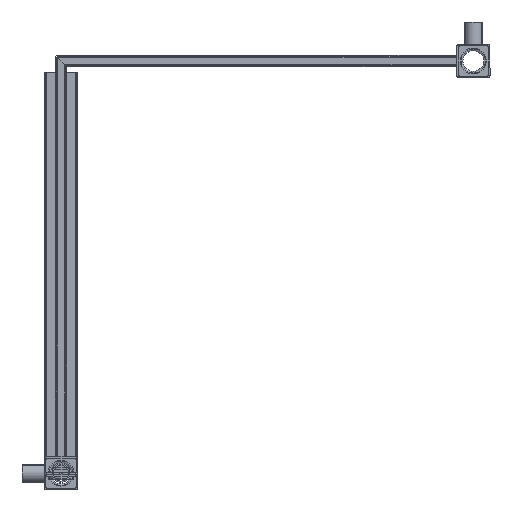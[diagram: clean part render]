
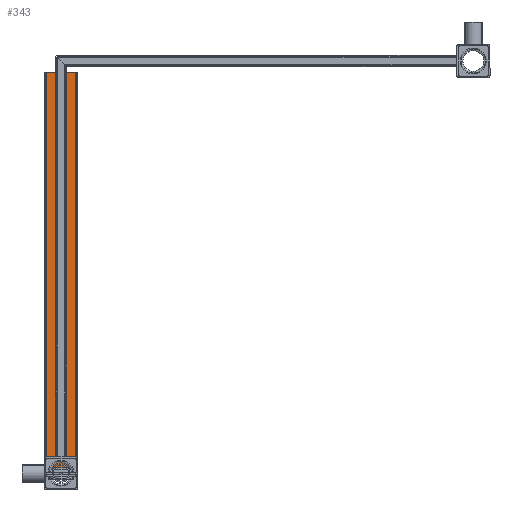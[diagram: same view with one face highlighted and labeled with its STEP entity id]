
A CAD part, front view. The second image highlights one B-rep face of the part: STEP entity #343.
In plain terms, the highlighted planar face has unit normal (0, -1, 0) as drawn and (0, 0, 1) by its records, which use the part's own axes.
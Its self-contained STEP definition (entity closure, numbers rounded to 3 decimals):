
#343 = ADVANCED_FACE( '', ( #949 ), #950, .T. );
#949 = FACE_OUTER_BOUND( '', #1912, .T. );
#950 = PLANE( '', #1913 );
#1912 = EDGE_LOOP( '', ( #2908, #2909, #2910, #2911 ) );
#1913 = AXIS2_PLACEMENT_3D( '', #2912, #2913, #2914 );
#2908 = ORIENTED_EDGE( '', *, *, #5505, .F. );
#2909 = ORIENTED_EDGE( '', *, *, #5506, .T. );
#2910 = ORIENTED_EDGE( '', *, *, #5507, .F. );
#2911 = ORIENTED_EDGE( '', *, *, #5508, .T. );
#2912 = CARTESIAN_POINT( '', ( 15., 389.28, 5. ) );
#2913 = DIRECTION( '', ( 0., 0., 1. ) );
#2914 = DIRECTION( '', ( 1., 0., 0. ) );
#5505 = EDGE_CURVE( '', #6552, #6553, #6554, .T. );
#5506 = EDGE_CURVE( '', #6552, #6555, #6556, .F. );
#5507 = EDGE_CURVE( '', #6557, #6555, #6558, .T. );
#5508 = EDGE_CURVE( '', #6557, #6553, #6559, .T. );
#6552 = VERTEX_POINT( '', #8111 );
#6553 = VERTEX_POINT( '', #8112 );
#6554 = LINE( '', #8113, #8114 );
#6555 = VERTEX_POINT( '', #8115 );
#6556 = LINE( '', #8116, #8117 );
#6557 = VERTEX_POINT( '', #8118 );
#6558 = LINE( '', #8119, #8120 );
#6559 = LINE( '', #8121, #8122 );
#8111 = CARTESIAN_POINT( '', ( 13., 25., 5. ) );
#8112 = CARTESIAN_POINT( '', ( -13., 25., 5. ) );
#8113 = CARTESIAN_POINT( '', ( 15., 25., 5. ) );
#8114 = VECTOR( '', #10159, 1000. );
#8115 = CARTESIAN_POINT( '', ( 13., 380., 5. ) );
#8116 = CARTESIAN_POINT( '', ( 13., 389.28, 5. ) );
#8117 = VECTOR( '', #10160, 1000. );
#8118 = CARTESIAN_POINT( '', ( -13., 380., 5. ) );
#8119 = CARTESIAN_POINT( '', ( -15., 380., 5. ) );
#8120 = VECTOR( '', #10161, 1000. );
#8121 = CARTESIAN_POINT( '', ( -13., 389.28, 5. ) );
#8122 = VECTOR( '', #10162, 1000. );
#10159 = DIRECTION( '', ( -1., 0., 0. ) );
#10160 = DIRECTION( '', ( 0., -1., 0. ) );
#10161 = DIRECTION( '', ( 1., 0., 0. ) );
#10162 = DIRECTION( '', ( 0., -1., 0. ) );
